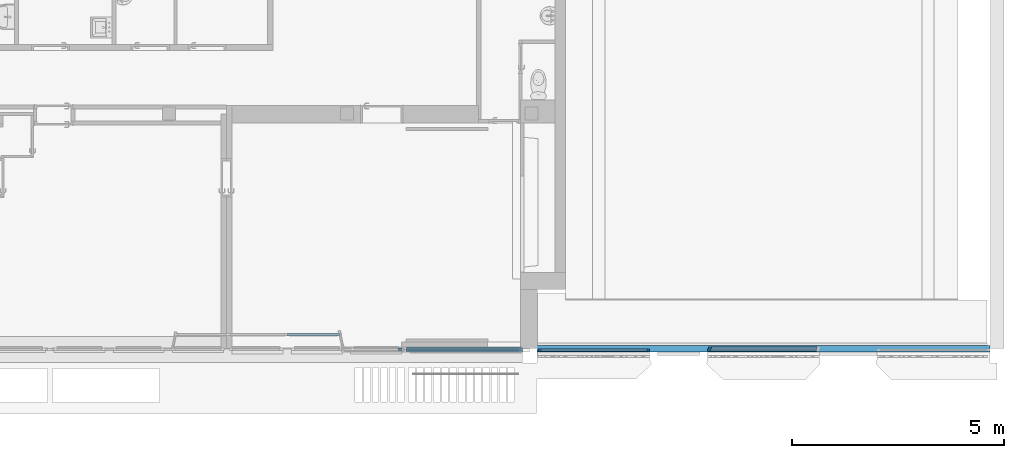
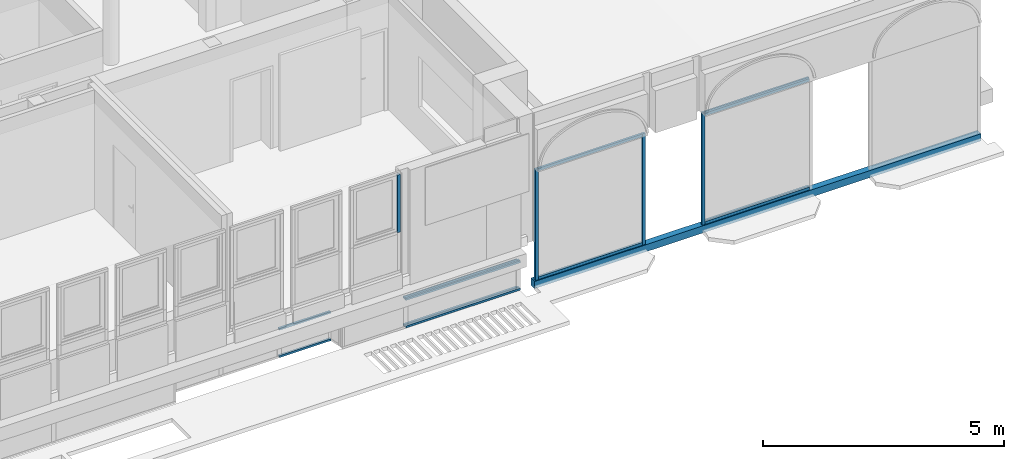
# One storey, part 9 of 97: 19 members, 1 beam, 8 elements without a shape of their own.
"""IFC4 building model written with IfcOpenShell, lengths in metres."""

from ifc_helpers import new_model, entity, si_unit, converted_unit, derived_unit, direction, frame, origin, place, context, subcontext, project, spatial, indexed_curve, outline, extrude, source, transform, mapped, material, type_object, type_shapes, element, aggregate, save


model = new_model("IFC4")

# Units and contexts
model_context = context("Model", 3, precision=1e-05, world=origin(), true_north=direction((6.12303176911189e-17, 1.0)))
body_context = subcontext(model_context, "Body", "Model", "MODEL_VIEW")
ifc_project = project(units=[si_unit("LENGTHUNIT", "METRE"), si_unit("AREAUNIT", "SQUARE_METRE"), si_unit("VOLUMEUNIT", "CUBIC_METRE"), converted_unit("PLANEANGLEUNIT", "DEGREE", entity("IfcRatioMeasure", 0.0174532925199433), si_unit("PLANEANGLEUNIT", "RADIAN"), dimensions=[0, 0, 0, 0, 0, 0, 0]), si_unit("MASSUNIT", "GRAM", prefix="KILO"), derived_unit("MASSDENSITYUNIT", [(si_unit("MASSUNIT", "GRAM", prefix="KILO"), 1), (si_unit("LENGTHUNIT", "METRE"), -3)]), derived_unit("MOMENTOFINERTIAUNIT", [(si_unit("LENGTHUNIT", "METRE"), 4)]), si_unit("TIMEUNIT", "SECOND"), si_unit("FREQUENCYUNIT", "HERTZ"), si_unit("THERMODYNAMICTEMPERATUREUNIT", "DEGREE_CELSIUS"), derived_unit("THERMALTRANSMITTANCEUNIT", [(si_unit("MASSUNIT", "GRAM", prefix="KILO"), 1), (si_unit("THERMODYNAMICTEMPERATUREUNIT", "KELVIN"), -1), (si_unit("TIMEUNIT", "SECOND"), -3)]), derived_unit("VOLUMETRICFLOWRATEUNIT", [(si_unit("LENGTHUNIT", "METRE"), 3), (si_unit("TIMEUNIT", "SECOND"), -1)]), si_unit("ELECTRICCURRENTUNIT", "AMPERE"), si_unit("ELECTRICVOLTAGEUNIT", "VOLT"), si_unit("POWERUNIT", "WATT"), si_unit("FORCEUNIT", "NEWTON", prefix="KILO"), si_unit("ILLUMINANCEUNIT", "LUX"), si_unit("LUMINOUSFLUXUNIT", "LUMEN"), si_unit("LUMINOUSINTENSITYUNIT", "CANDELA"), derived_unit("USERDEFINED", [(si_unit("MASSUNIT", "GRAM", prefix="KILO"), -1), (si_unit("LENGTHUNIT", "METRE"), -2), (si_unit("TIMEUNIT", "SECOND"), 3), (si_unit("LUMINOUSFLUXUNIT", "LUMEN"), 1)]), derived_unit("LINEARVELOCITYUNIT", [(si_unit("LENGTHUNIT", "METRE"), 1), (si_unit("TIMEUNIT", "SECOND"), -1)]), si_unit("PRESSUREUNIT", "PASCAL"), derived_unit("USERDEFINED", [(si_unit("LENGTHUNIT", "METRE"), -2), (si_unit("MASSUNIT", "GRAM", prefix="KILO"), 1), (si_unit("TIMEUNIT", "SECOND"), -2)]), derived_unit("LINEARFORCEUNIT", [(si_unit("MASSUNIT", "GRAM", prefix="KILO"), 1), (si_unit("LENGTHUNIT", "METRE"), 1), (si_unit("TIMEUNIT", "SECOND"), -2), (si_unit("LENGTHUNIT", "METRE"), -1)]), derived_unit("PLANARFORCEUNIT", [(si_unit("MASSUNIT", "GRAM", prefix="KILO"), 1), (si_unit("LENGTHUNIT", "METRE"), 1), (si_unit("TIMEUNIT", "SECOND"), -2), (si_unit("LENGTHUNIT", "METRE"), -2)])], contexts=[model_context])

# Site, building, storey
site_placement = place(None, origin())
site = spatial("IfcSite", under=ifc_project, at=site_placement, Name="Default", CompositionType="ELEMENT")
building_placement = place(site_placement, origin())
building = spatial("IfcBuilding", under=site, at=building_placement, Name="HOTEL CONSULAIRE BOULOGNE SUR MER", CompositionType="ELEMENT")
storey_placement = place(building_placement, frame((0.0, 0.0, 3.62152697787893)))
storey = spatial("IfcBuildingStorey", under=building, at=storey_placement, Name="Niveau 1", CompositionType="ELEMENT", Elevation=3.62152697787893)

# Curtain wall, member
curtain_wall_type = type_object("IfcCurtainWallType", Name="Mur-rideau:Simple panneau", PredefinedType="NOTDEFINED")
curtain_wall_1_placement = place(storey_placement, frame((0.0, 0.0, -3.62152697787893)))
curtain_wall_1 = element("IfcCurtainWall", 1, at=curtain_wall_1_placement, inside=storey, type_object=curtain_wall_type, Name="Mur-rideau:Simple panneau", ObjectType="Mur-rideau:Simple panneau", PredefinedType="NOTDEFINED")
ifc_material_1 = material(Name="PVC - Blanc", Category="Plastique")
member_type_1 = type_object("IfcMemberType", Name="Meneau rectangulaire:50 x 25mm", PredefinedType="MULLION", material=ifc_material_1)
shared_shape_1 = source(origin(), body_context, "Body", "SweptSolid", [
    extrude(outline(indexed_curve([(-0.025, -0.025), (0.025, -0.025), (0.025, 0.025), (-0.025, 0.025), (-0.025, -0.025)], self_intersect=False)), frame((-0.025, -0.025, -2.74446152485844), z_axis=(0.0, 0.0, 1.0), x_axis=(0.0, -1.0, 0.0)), (0.0, 0.0, 1.0), 2.74446152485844),
])
type_shapes(member_type_1, [shared_shape_1])
member_1_placement = place(storey_placement, frame((11.3066382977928, -29.5980671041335, -0.56300000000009), z_axis=(1.0, 0.0, 0.0), x_axis=(0.0, 0.0, 1.0)))
member_1 = element("IfcMember", 2, at=member_1_placement, type_object=member_type_1, material=ifc_material_1, Name="Meneau rectangulaire:50 x 25mm", ObjectType="Meneau rectangulaire:50 x 25mm", PredefinedType="MULLION", context=body_context, shape_type="MappedRepresentation", body=[
    mapped(shared_shape_1, transform((0.0, 0.0, 0.0), scale=1.0)),
])

curtain_wall_2_placement = place(storey_placement, frame((0.0, 0.0, -3.62152697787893)))
curtain_wall_2 = element("IfcCurtainWall", 3, at=curtain_wall_2_placement, inside=storey, type_object=curtain_wall_type, Name="Mur-rideau:Simple panneau", ObjectType="Mur-rideau:Simple panneau", PredefinedType="NOTDEFINED")
member_2_placement = place(storey_placement, frame((11.3066382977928, -29.6370671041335, -0.56300000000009), z_axis=(1.0, 0.0, 0.0), x_axis=(0.0, 0.0, 1.0)))
member_2 = element("IfcMember", 4, at=member_2_placement, type_object=member_type_1, material=ifc_material_1, Name="Meneau rectangulaire:50 x 25mm", ObjectType="Meneau rectangulaire:50 x 25mm", PredefinedType="MULLION", context=body_context, shape_type="MappedRepresentation", body=[
    mapped(shared_shape_1, transform((0.0, 0.0, 0.0), scale=1.0)),
])

# Member
member_type_2 = type_object("IfcMemberType", Name="Meneau rectangulaire:50 x 25mm", PredefinedType="MULLION", material=ifc_material_1)
shared_shape_2 = source(origin(), body_context, "Body", "SweptSolid", [
    extrude(outline(indexed_curve([(-0.025, -0.025), (0.025, -0.025), (0.025, 0.025), (-0.025, 0.025), (-0.025, -0.025)], self_intersect=False)), frame((-0.025, -0.025, -2.74446152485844), z_axis=(0.0, 0.0, 1.0), x_axis=(0.0, -1.0, 0.0)), (0.0, 0.0, 1.0), 2.74446152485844),
])
type_shapes(member_type_2, [shared_shape_2])
member_3_placement = place(storey_placement, frame((8.56217677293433, -29.5980671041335, -1.3055269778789), z_axis=(-1.0, 0.0, 0.0), x_axis=(0.0, 0.0, -1.0)))
member_3 = element("IfcMember", 5, at=member_3_placement, type_object=member_type_2, material=ifc_material_1, Name="Meneau rectangulaire:50 x 25mm", ObjectType="Meneau rectangulaire:50 x 25mm", PredefinedType="MULLION", context=body_context, shape_type="MappedRepresentation", body=[
    mapped(shared_shape_2, transform((0.0, 0.0, 0.0), scale=1.0)),
])

aggregate(curtain_wall_1, [member_1, member_3])

member_4_placement = place(storey_placement, frame((8.56217677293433, -29.6370671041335, -1.3055269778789), z_axis=(-1.0, 0.0, 0.0), x_axis=(0.0, 0.0, -1.0)))
member_4 = element("IfcMember", 6, at=member_4_placement, type_object=member_type_2, material=ifc_material_1, Name="Meneau rectangulaire:50 x 25mm", ObjectType="Meneau rectangulaire:50 x 25mm", PredefinedType="MULLION", context=body_context, shape_type="MappedRepresentation", body=[
    mapped(shared_shape_2, transform((0.0, 0.0, 0.0), scale=1.0)),
])

aggregate(curtain_wall_2, [member_2, member_4])

# Curtain wall, members
curtain_wall_3_placement = place(storey_placement, frame((0.0, 0.0, -3.62152697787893)))
curtain_wall_3 = element("IfcCurtainWall", 7, at=curtain_wall_3_placement, inside=storey, type_object=curtain_wall_type, Name="Mur-rideau:Simple panneau", ObjectType="Mur-rideau:Simple panneau", PredefinedType="NOTDEFINED")
member_type_3 = type_object("IfcMemberType", Name="Meneau rectangulaire:50 x 25mm", PredefinedType="MULLION", material=ifc_material_1)
shared_shape_3 = source(origin(), body_context, "Body", "SweptSolid", [
    extrude(outline(indexed_curve([(-0.025, -0.025), (0.025, -0.025), (0.025, 0.025), (-0.025, 0.025), (-0.025, -0.025)], self_intersect=False)), frame((-0.025, -0.025, -1.231), z_axis=(0.0, 0.0, 1.0), x_axis=(0.0, -1.0, 0.0)), (0.0, 0.0, 1.0), 1.231),
])
type_shapes(member_type_3, [shared_shape_3])
member_5_placement = place(storey_placement, frame((6.98913741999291, -29.2557686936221, -0.56300000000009), z_axis=(1.0, 0.0, 0.0), x_axis=(0.0, 0.0, 1.0)))
member_5 = element("IfcMember", 8, at=member_5_placement, type_object=member_type_3, material=ifc_material_1, Name="Meneau rectangulaire:50 x 25mm", ObjectType="Meneau rectangulaire:50 x 25mm", PredefinedType="MULLION", context=body_context, shape_type="MappedRepresentation", body=[
    mapped(shared_shape_3, transform((0.0, 0.0, 0.0), scale=1.0)),
])
member_type_4 = type_object("IfcMemberType", Name="Meneau rectangulaire:50 x 25mm", PredefinedType="MULLION", material=ifc_material_1)
shared_shape_4 = source(origin(), body_context, "Body", "SweptSolid", [
    extrude(outline(indexed_curve([(-0.025, -0.025), (0.025, -0.025), (0.025, 0.025), (-0.025, 0.025), (-0.025, -0.025)], self_intersect=False)), frame((-0.025, -0.025, -1.231), z_axis=(0.0, 0.0, 1.0), x_axis=(0.0, -1.0, 0.0)), (0.0, 0.0, 1.0), 1.231),
])
type_shapes(member_type_4, [shared_shape_4])
member_6_placement = place(storey_placement, frame((5.75813741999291, -29.2557686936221, -1.3055269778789), z_axis=(-1.0, 0.0, 0.0), x_axis=(0.0, 0.0, -1.0)))
member_6 = element("IfcMember", 9, at=member_6_placement, type_object=member_type_4, material=ifc_material_1, Name="Meneau rectangulaire:50 x 25mm", ObjectType="Meneau rectangulaire:50 x 25mm", PredefinedType="MULLION", context=body_context, shape_type="MappedRepresentation", body=[
    mapped(shared_shape_4, transform((0.0, 0.0, 0.0), scale=1.0)),
])
aggregate(curtain_wall_3, [member_5, member_6])

# Curtain wall, member
curtain_wall_4_placement = place(storey_placement, frame((0.0, 0.0, -3.62152697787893)))
curtain_wall_4 = element("IfcCurtainWall", 10, at=curtain_wall_4_placement, inside=storey, type_object=curtain_wall_type, Name="Mur-rideau:Simple panneau", ObjectType="Mur-rideau:Simple panneau", PredefinedType="NOTDEFINED")
ifc_material_2 = material(Name="alu finifion bleu")
member_type_5 = type_object("IfcMemberType", Name="Meneau rectangulaire:50 x 35 Alu bleu", PredefinedType="MULLION", material=ifc_material_2)
shared_shape_5 = source(origin(), body_context, "Body", "SweptSolid", [
    extrude(outline(indexed_curve([(-0.025, -0.035), (0.025, -0.035), (0.025, 0.035), (-0.025, 0.035), (-0.025, -0.035)], self_intersect=False)), frame((-0.035, -0.025, -2.49), z_axis=(0.0, 0.0, 1.0), x_axis=(0.0, -1.0, 0.0)), (0.0, 0.0, 1.0), 2.48999999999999),
])
type_shapes(member_type_5, [shared_shape_5])
member_7_placement = place(storey_placement, frame((14.2364778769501, -29.6140671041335, 1.60503552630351), z_axis=(1.0, 0.0, 0.0), x_axis=(0.0, 0.0, 1.0)))
member_7 = element("IfcMember", 11, at=member_7_placement, type_object=member_type_5, material=ifc_material_2, Name="Meneau rectangulaire:50 x 35 Alu bleu", ObjectType="Meneau rectangulaire:50 x 35 Alu bleu", PredefinedType="MULLION", context=body_context, shape_type="MappedRepresentation", body=[
    mapped(shared_shape_5, transform((0.0, 0.0, 0.0), scale=1.0)),
])

curtain_wall_5_placement = place(storey_placement, frame((0.0, 0.0, -3.62152697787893)))
curtain_wall_5 = element("IfcCurtainWall", 12, at=curtain_wall_5_placement, inside=storey, type_object=curtain_wall_type, Name="Mur-rideau:Simple panneau", ObjectType="Mur-rideau:Simple panneau", PredefinedType="NOTDEFINED")
member_8_placement = place(storey_placement, frame((18.2477848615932, -29.5740671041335, 1.60503552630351), z_axis=(1.0, 0.0, 0.0), x_axis=(0.0, 0.0, 1.0)))
member_8 = element("IfcMember", 13, at=member_8_placement, type_object=member_type_5, material=ifc_material_2, Name="Meneau rectangulaire:50 x 35 Alu bleu", ObjectType="Meneau rectangulaire:50 x 35 Alu bleu", PredefinedType="MULLION", context=body_context, shape_type="MappedRepresentation", body=[
    mapped(shared_shape_5, transform((0.0, 0.0, 0.0), scale=1.0)),
])

# Member
member_type_6 = type_object("IfcMemberType", Name="Meneau rectangulaire:50 x 35 Alu bleu", PredefinedType="MULLION", material=ifc_material_2)
shared_shape_6 = source(origin(), body_context, "Body", "SweptSolid", [
    extrude(outline(indexed_curve([(-0.025, -0.035), (0.025, -0.035), (0.025, 0.035), (-0.025, 0.035), (-0.025, -0.035)], self_intersect=False)), frame((-0.035, -0.025, -2.48999999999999), z_axis=(0.0, 0.0, 1.0), x_axis=(0.0, -1.0, 0.0)), (0.0, 0.0, 1.0), 2.48999999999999),
])
type_shapes(member_type_6, [shared_shape_6])
member_9_placement = place(storey_placement, frame((11.7464778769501, -29.6140671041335, -1.21), z_axis=(-1.0, 0.0, 0.0), x_axis=(0.0, 0.0, -1.0)))
member_9 = element("IfcMember", 14, at=member_9_placement, type_object=member_type_6, material=ifc_material_2, Name="Meneau rectangulaire:50 x 35 Alu bleu", ObjectType="Meneau rectangulaire:50 x 35 Alu bleu", PredefinedType="MULLION", context=body_context, shape_type="MappedRepresentation", body=[
    mapped(shared_shape_6, transform((0.0, 0.0, 0.0), scale=1.0)),
])

member_10_placement = place(storey_placement, frame((15.7577848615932, -29.5740671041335, -1.21), z_axis=(-1.0, 0.0, 0.0), x_axis=(0.0, 0.0, -1.0)))
member_10 = element("IfcMember", 15, at=member_10_placement, type_object=member_type_6, material=ifc_material_2, Name="Meneau rectangulaire:50 x 35 Alu bleu", ObjectType="Meneau rectangulaire:50 x 35 Alu bleu", PredefinedType="MULLION", context=body_context, shape_type="MappedRepresentation", body=[
    mapped(shared_shape_6, transform((0.0, 0.0, 0.0), scale=1.0)),
])

# Curtain wall, members
curtain_wall_6_placement = place(storey_placement, frame((0.0, 0.0, -3.62152697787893)))
curtain_wall_6 = element("IfcCurtainWall", 16, at=curtain_wall_6_placement, inside=storey, type_object=curtain_wall_type, Name="Mur-rideau:Simple panneau", ObjectType="Mur-rideau:Simple panneau", PredefinedType="NOTDEFINED")
member_type_7 = type_object("IfcMemberType", Name="Meneau rectangulaire:50 x 35 Alu bleu", PredefinedType="MULLION", material=ifc_material_2)
shared_shape_7 = source(origin(), body_context, "Body", "SweptSolid", [
    extrude(outline(indexed_curve([(-0.025, -0.035), (0.025, -0.035), (0.025, 0.035), (-0.025, 0.035), (-0.025, -0.035)], self_intersect=False)), frame((-0.035, -0.025, -2.49505431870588), z_axis=(0.0, 0.0, 1.0), x_axis=(0.0, -1.0, 0.0)), (0.0, 0.0, 1.0), 2.49505431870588),
])
type_shapes(member_type_7, [shared_shape_7])
member_11_placement = place(storey_placement, frame((18.2334778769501, -29.6140671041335, 1.60503552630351), z_axis=(1.0, 0.0, 0.0), x_axis=(0.0, 0.0, 1.0)))
member_11 = element("IfcMember", 17, at=member_11_placement, type_object=member_type_7, material=ifc_material_2, Name="Meneau rectangulaire:50 x 35 Alu bleu", ObjectType="Meneau rectangulaire:50 x 35 Alu bleu", PredefinedType="MULLION", context=body_context, shape_type="MappedRepresentation", body=[
    mapped(shared_shape_7, transform((0.0, 0.0, 0.0), scale=1.0)),
])
member_type_8 = type_object("IfcMemberType", Name="Meneau rectangulaire:50 x 35 Alu bleu", PredefinedType="MULLION", material=ifc_material_2)
shared_shape_8 = source(origin(), body_context, "Body", "SweptSolid", [
    extrude(outline(indexed_curve([(-0.025, -0.035), (0.025, -0.035), (0.025, 0.035), (-0.025, 0.035), (-0.025, -0.035)], self_intersect=False)), frame((-0.035, -0.025, -2.49505431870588), z_axis=(0.0, 0.0, 1.0), x_axis=(0.0, -1.0, 0.0)), (0.0, 0.0, 1.0), 2.49505431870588),
])
type_shapes(member_type_8, [shared_shape_8])
member_12_placement = place(storey_placement, frame((15.7384235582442, -29.6140671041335, -1.21), z_axis=(-1.0, 0.0, 0.0), x_axis=(0.0, 0.0, -1.0)))
member_12 = element("IfcMember", 18, at=member_12_placement, type_object=member_type_8, material=ifc_material_2, Name="Meneau rectangulaire:50 x 35 Alu bleu", ObjectType="Meneau rectangulaire:50 x 35 Alu bleu", PredefinedType="MULLION", context=body_context, shape_type="MappedRepresentation", body=[
    mapped(shared_shape_8, transform((0.0, 0.0, 0.0), scale=1.0)),
])

# Beam
ifc_material_3 = material(Name="Béton - Béton coulé sur place", Category="Béton")
beam_type = type_object("IfcBeamType", Name="Poutre rectangulaire - Béton:150X180", PredefinedType="BEAM", material=ifc_material_3)
shared_shape_9 = source(origin(), body_context, "Body", "SweptSolid", [
    extrude(outline(indexed_curve([(-0.0900000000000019, -0.0749999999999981), (0.0899999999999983, -0.0749999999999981), (0.0900000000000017, 0.0750000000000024), (-0.0899999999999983, 0.0750000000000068), (-0.0900000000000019, -0.0749999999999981)], self_intersect=False)), frame((11.6466382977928, -29.5600671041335, 2.32152697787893), z_axis=(1.0, 0.0, 0.0), x_axis=(0.0, 0.0, -1.0)), (0.0, 0.0, 1.0), 10.682),
])
type_shapes(beam_type, [shared_shape_9])
beam_placement = place(storey_placement, frame((0.0, 0.0, -3.62152697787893)))
element("IfcBeam", 19, at=beam_placement, inside=storey, type_object=beam_type, material=ifc_material_3, Name="Poutre rectangulaire - Béton:150X180", ObjectType="Poutre rectangulaire - Béton:150X180", PredefinedType="BEAM", context=body_context, shape_type="MappedRepresentation", body=[
    mapped(shared_shape_9, transform((0.0, 0.0, 0.0), scale=1.0)),
])

# Curtain wall, member
curtain_wall_7_placement = place(storey_placement, frame((0.0, 0.0, -3.62152697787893)))
curtain_wall_7 = element("IfcCurtainWall", 20, at=curtain_wall_7_placement, inside=storey, type_object=curtain_wall_type, Name="Mur-rideau:Simple panneau", ObjectType="Mur-rideau:Simple panneau", PredefinedType="NOTDEFINED")
member_type_9 = type_object("IfcMemberType", Name="Meneau rectangulaire:50 x 35", PredefinedType="MULLION", material=ifc_material_1)
shared_shape_10 = source(origin(), body_context, "Body", "SweptSolid", [
    extrude(outline(indexed_curve([(-0.025, -0.035), (0.025, -0.035), (0.025, 0.035), (-0.025, 0.035), (-0.025, -0.035)], self_intersect=False)), frame((-0.035, -0.025, -1.46037070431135), z_axis=(0.0, 0.0, 1.0), x_axis=(0.0, -1.0, 0.0)), (0.0, 0.0, 1.0), 1.46037070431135),
])
type_shapes(member_type_9, [shared_shape_10])
member_13_placement = place(storey_placement, frame((8.45858002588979, -29.5501047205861, 2.60047302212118)))
member_13 = element("IfcMember", 21, at=member_13_placement, type_object=member_type_9, material=ifc_material_1, Name="Meneau rectangulaire:50 x 35", ObjectType="Meneau rectangulaire:50 x 35", PredefinedType="MULLION", context=body_context, shape_type="MappedRepresentation", body=[
    mapped(shared_shape_10, transform((0.0, 0.0, 0.0), scale=1.0)),
])
aggregate(curtain_wall_7, [member_13])

# Curtain wall, members
curtain_wall_8_placement = place(storey_placement, frame((0.0, 0.0, -3.62152697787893)))
curtain_wall_8 = element("IfcCurtainWall", 22, at=curtain_wall_8_placement, inside=storey, type_object=curtain_wall_type, Name="Mur-rideau:Simple panneau", ObjectType="Mur-rideau:Simple panneau", PredefinedType="NOTDEFINED")
member_type_10 = type_object("IfcMemberType", Name="Meneau rectangulaire:50 x 25mm", PredefinedType="MULLION", material=ifc_material_1)
shared_shape_11 = source(origin(), body_context, "Body", "SweptSolid", [
    extrude(outline(indexed_curve([(-0.025, -0.025), (0.025, -0.025), (0.025, 0.025), (-0.025, 0.025), (-0.025, -0.025)], self_intersect=False)), frame((-0.025, -0.025, -2.71482421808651), z_axis=(0.0, 0.0, 1.0), x_axis=(0.0, -1.0, 0.0)), (0.0, 0.0, 1.0), 2.71482421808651),
])
type_shapes(member_type_10, [shared_shape_11])
member_14_placement = place(storey_placement, frame((11.2770009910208, -29.5723138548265, -0.56300000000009), z_axis=(1.0, 0.0, 0.0), x_axis=(0.0, 0.0, 1.0)))
member_14 = element("IfcMember", 23, at=member_14_placement, type_object=member_type_10, material=ifc_material_1, Name="Meneau rectangulaire:50 x 25mm", ObjectType="Meneau rectangulaire:50 x 25mm", PredefinedType="MULLION", context=body_context, shape_type="MappedRepresentation", body=[
    mapped(shared_shape_11, transform((0.0, 0.0, 0.0), scale=1.0)),
])
member_type_11 = type_object("IfcMemberType", Name="Meneau rectangulaire:50 x 25mm", PredefinedType="MULLION", material=ifc_material_1)
shared_shape_12 = source(origin(), body_context, "Body", "SweptSolid", [
    extrude(outline(indexed_curve([(-0.025, -0.025), (0.025, -0.025), (0.025, 0.025), (-0.025, 0.025), (-0.025, -0.025)], self_intersect=False)), frame((-0.025, -0.025, -2.71482421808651), z_axis=(0.0, 0.0, 1.0), x_axis=(0.0, -1.0, 0.0)), (0.0, 0.0, 1.0), 2.71482421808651),
])
type_shapes(member_type_11, [shared_shape_12])
member_15_placement = place(storey_placement, frame((8.56217677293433, -29.5723138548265, -1.3055269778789), z_axis=(-1.0, 0.0, 0.0), x_axis=(0.0, 0.0, -1.0)))
member_15 = element("IfcMember", 24, at=member_15_placement, type_object=member_type_11, material=ifc_material_1, Name="Meneau rectangulaire:50 x 25mm", ObjectType="Meneau rectangulaire:50 x 25mm", PredefinedType="MULLION", context=body_context, shape_type="MappedRepresentation", body=[
    mapped(shared_shape_12, transform((0.0, 0.0, 0.0), scale=1.0)),
])
aggregate(curtain_wall_8, [member_14, member_15])

# Member
member_type_12 = type_object("IfcMemberType", Name="Meneau rectangulaire:50 x 35 Alu bleu", PredefinedType="MULLION", material=ifc_material_2)
shared_shape_13 = source(origin(), body_context, "Body", "SweptSolid", [
    extrude(outline(indexed_curve([(-0.025, -0.035), (0.025, -0.035), (0.025, 0.035), (-0.025, 0.035), (-0.025, -0.035)], self_intersect=False)), frame((-0.035, -0.025, -2.81503552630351), z_axis=(0.0, 0.0, 1.0), x_axis=(0.0, -1.0, 0.0)), (0.0, 0.0, 1.0), 2.81503552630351),
])
type_shapes(member_type_12, [shared_shape_13])
member_16_placement = place(storey_placement, frame((15.6684235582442, -29.6140671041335, 1.60503552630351), z_axis=(0.0, 0.0, 1.0), x_axis=(-1.0, 0.0, 0.0)))
member_16 = element("IfcMember", 25, at=member_16_placement, type_object=member_type_12, material=ifc_material_2, Name="Meneau rectangulaire:50 x 35 Alu bleu", ObjectType="Meneau rectangulaire:50 x 35 Alu bleu", PredefinedType="MULLION", context=body_context, shape_type="MappedRepresentation", body=[
    mapped(shared_shape_13, transform((0.0, 0.0, 0.0), scale=1.0)),
])

aggregate(curtain_wall_6, [member_16, member_11, member_12])

member_17_placement = place(storey_placement, frame((11.6764778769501, -29.6140671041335, 1.60503552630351), z_axis=(0.0, 0.0, 1.0), x_axis=(-1.0, 0.0, 0.0)))
member_17 = element("IfcMember", 26, at=member_17_placement, type_object=member_type_12, material=ifc_material_2, Name="Meneau rectangulaire:50 x 35 Alu bleu", ObjectType="Meneau rectangulaire:50 x 35 Alu bleu", PredefinedType="MULLION", context=body_context, shape_type="MappedRepresentation", body=[
    mapped(shared_shape_13, transform((0.0, 0.0, 0.0), scale=1.0)),
])

member_18_placement = place(storey_placement, frame((15.6877848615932, -29.5740671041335, 1.60503552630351), z_axis=(0.0, 0.0, 1.0), x_axis=(-1.0, 0.0, 0.0)))
member_18 = element("IfcMember", 27, at=member_18_placement, type_object=member_type_12, material=ifc_material_2, Name="Meneau rectangulaire:50 x 35 Alu bleu", ObjectType="Meneau rectangulaire:50 x 35 Alu bleu", PredefinedType="MULLION", context=body_context, shape_type="MappedRepresentation", body=[
    mapped(shared_shape_13, transform((0.0, 0.0, 0.0), scale=1.0)),
])

aggregate(curtain_wall_5, [member_18, member_8, member_10])

member_type_13 = type_object("IfcMemberType", Name="Meneau rectangulaire:50 x 35 Alu bleu", PredefinedType="MULLION", material=ifc_material_2)
shared_shape_14 = source(origin(), body_context, "Body", "SweptSolid", [
    extrude(outline(indexed_curve([(-0.025, -0.035), (0.025, -0.035), (0.025, 0.035), (-0.025, 0.035), (-0.025, -0.035)], self_intersect=False)), frame((-0.035, -0.025, -2.81503552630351), z_axis=(0.0, 0.0, 1.0), x_axis=(0.0, -1.0, 0.0)), (0.0, 0.0, 1.0), 2.81503552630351),
])
type_shapes(member_type_13, [shared_shape_14])
member_19_placement = place(storey_placement, frame((14.3064778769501, -29.6140671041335, -1.21), z_axis=(0.0, 0.0, -1.0), x_axis=(1.0, 0.0, 0.0)))
member_19 = element("IfcMember", 28, at=member_19_placement, type_object=member_type_13, material=ifc_material_2, Name="Meneau rectangulaire:50 x 35 Alu bleu", ObjectType="Meneau rectangulaire:50 x 35 Alu bleu", PredefinedType="MULLION", context=body_context, shape_type="MappedRepresentation", body=[
    mapped(shared_shape_14, transform((0.0, 0.0, 0.0), scale=1.0)),
])

aggregate(curtain_wall_4, [member_17, member_7, member_19, member_9])

save(model, "model.ifc")
